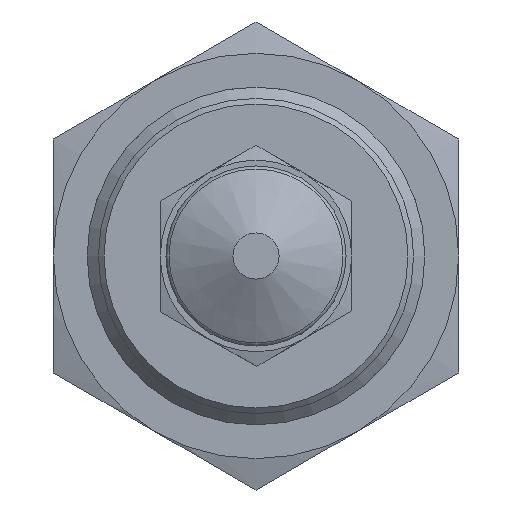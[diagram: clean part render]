
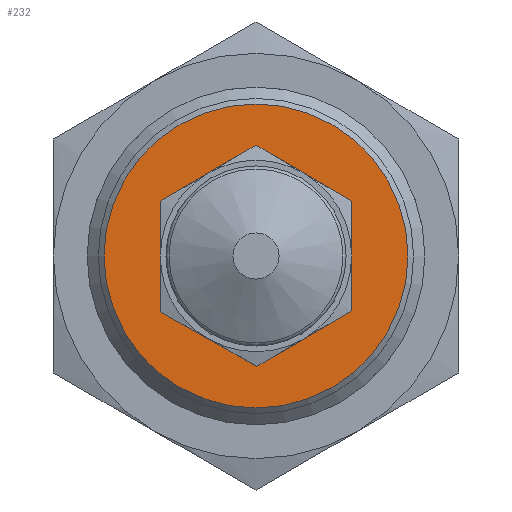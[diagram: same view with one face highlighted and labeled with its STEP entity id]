
A CAD part, front view. The second image highlights one B-rep face of the part: STEP entity #232.
In plain terms, the highlighted planar face has unit normal (0, -1, 0).
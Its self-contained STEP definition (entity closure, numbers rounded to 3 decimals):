
#62=PLANE('',#1493);
#232=ADVANCED_FACE('',(#342,#343),#62,.T.);
#342=FACE_BOUND('',#382,.T.);
#343=FACE_BOUND('',#383,.T.);
#382=EDGE_LOOP('',(#661,#662,#663,#664,#665,#666,#667,#668));
#383=EDGE_LOOP('',(#669));
#491=CIRCLE('',#1489,13.5);
#492=CIRCLE('',#1491,9.8);
#493=CIRCLE('',#1492,9.8);
#553=LINE('',#2066,#592);
#554=LINE('',#2071,#593);
#555=LINE('',#2073,#594);
#556=LINE('',#2077,#595);
#557=LINE('',#2079,#596);
#558=LINE('',#2081,#597);
#592=VECTOR('',#1676,1.);
#593=VECTOR('',#1679,1.);
#594=VECTOR('',#1680,1.);
#595=VECTOR('',#1683,1.);
#596=VECTOR('',#1684,1.);
#597=VECTOR('',#1685,1.);
#661=ORIENTED_EDGE('',*,*,#1183,.F.);
#662=ORIENTED_EDGE('',*,*,#1184,.T.);
#663=ORIENTED_EDGE('',*,*,#1185,.F.);
#664=ORIENTED_EDGE('',*,*,#1186,.F.);
#665=ORIENTED_EDGE('',*,*,#1187,.T.);
#666=ORIENTED_EDGE('',*,*,#1188,.F.);
#667=ORIENTED_EDGE('',*,*,#1189,.F.);
#668=ORIENTED_EDGE('',*,*,#1190,.F.);
#669=ORIENTED_EDGE('',*,*,#1182,.F.);
#1048=VERTEX_POINT('',#2064);
#1049=VERTEX_POINT('',#2067);
#1050=VERTEX_POINT('',#2068);
#1051=VERTEX_POINT('',#2070);
#1052=VERTEX_POINT('',#2072);
#1053=VERTEX_POINT('',#2074);
#1054=VERTEX_POINT('',#2076);
#1055=VERTEX_POINT('',#2078);
#1056=VERTEX_POINT('',#2080);
#1182=EDGE_CURVE('',#1048,#1048,#491,.T.);
#1183=EDGE_CURVE('',#1049,#1050,#553,.T.);
#1184=EDGE_CURVE('',#1049,#1051,#492,.T.);
#1185=EDGE_CURVE('',#1052,#1051,#554,.T.);
#1186=EDGE_CURVE('',#1053,#1052,#555,.T.);
#1187=EDGE_CURVE('',#1053,#1054,#493,.T.);
#1188=EDGE_CURVE('',#1055,#1054,#556,.T.);
#1189=EDGE_CURVE('',#1056,#1055,#557,.T.);
#1190=EDGE_CURVE('',#1050,#1056,#558,.T.);
#1489=AXIS2_PLACEMENT_3D('',#2063,#1672,#1673);
#1491=AXIS2_PLACEMENT_3D('',#2069,#1677,#1678);
#1492=AXIS2_PLACEMENT_3D('',#2075,#1681,#1682);
#1493=AXIS2_PLACEMENT_3D('',#2082,#1686,#1687);
#1672=DIRECTION('',(0.,1.,0.));
#1673=DIRECTION('',(-1.,0.,0.));
#1676=DIRECTION('',(0.871,0.,-0.491));
#1677=DIRECTION('',(0.,1.,0.));
#1678=DIRECTION('',(0.,0.,-1.));
#1679=DIRECTION('',(0.,0.,-1.));
#1680=DIRECTION('',(-0.863,0.,-0.505));
#1681=DIRECTION('',(0.,1.,0.));
#1682=DIRECTION('',(0.,0.,-1.));
#1683=DIRECTION('',(-0.863,0.,0.505));
#1684=DIRECTION('',(0.,0.,1.));
#1685=DIRECTION('',(0.863,0.,0.505));
#1686=DIRECTION('',(0.,-1.,0.));
#1687=DIRECTION('',(1.,0.,0.));
#2063=CARTESIAN_POINT('',(0.,-44.,0.));
#2064=CARTESIAN_POINT('',(-13.5,-44.,0.));
#2066=CARTESIAN_POINT('',(-8.5,-44.,-4.968));
#2067=CARTESIAN_POINT('',(-8.421,-44.,-5.012));
#2068=CARTESIAN_POINT('',(0.078,-44.,-9.8));
#2069=CARTESIAN_POINT('',(0.,-44.,0.));
#2070=CARTESIAN_POINT('',(-8.5,-44.,-4.877));
#2071=CARTESIAN_POINT('',(-8.5,-44.,4.877));
#2072=CARTESIAN_POINT('',(-8.5,-44.,4.877));
#2073=CARTESIAN_POINT('',(0.,-44.,9.845));
#2074=CARTESIAN_POINT('',(-0.078,-44.,9.8));
#2075=CARTESIAN_POINT('',(0.,-44.,0.));
#2076=CARTESIAN_POINT('',(0.078,-44.,9.8));
#2077=CARTESIAN_POINT('',(8.5,-44.,4.877));
#2078=CARTESIAN_POINT('',(8.5,-44.,4.877));
#2079=CARTESIAN_POINT('',(8.5,-44.,-4.877));
#2080=CARTESIAN_POINT('',(8.5,-44.,-4.877));
#2081=CARTESIAN_POINT('',(0.078,-44.,-9.8));
#2082=CARTESIAN_POINT('',(0.,-44.,10.344));
